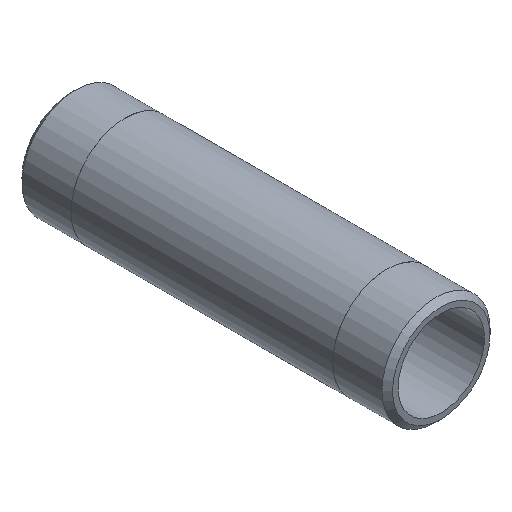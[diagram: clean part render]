
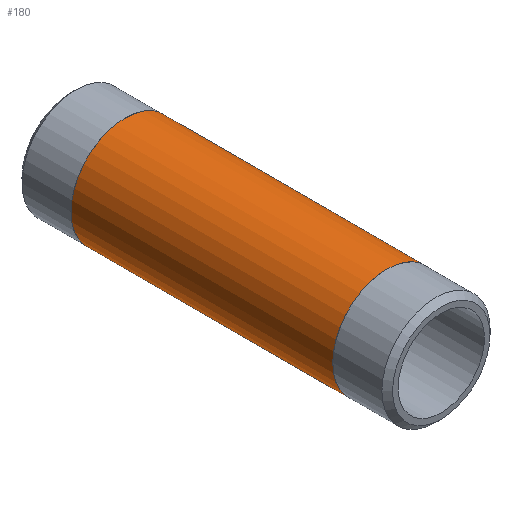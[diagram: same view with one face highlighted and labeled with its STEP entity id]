
A CAD part, isometric view. The second image highlights one B-rep face of the part: STEP entity #180.
In plain terms, the highlighted cylindrical face has radius 16.701 mm (diameter 33.401 mm), a full revolution.
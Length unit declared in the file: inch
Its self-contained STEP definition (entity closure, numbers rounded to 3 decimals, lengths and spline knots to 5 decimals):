
#25=CYLINDRICAL_SURFACE('',#220,0.6575);
#34=FACE_OUTER_BOUND('',#47,.T.);
#47=EDGE_LOOP('',(#155,#156,#157,#158,#159,#160));
#55=LINE('',#338,#61);
#61=VECTOR('',#283,0.6575);
#77=CIRCLE('',#218,0.6575);
#78=CIRCLE('',#219,0.6575);
#79=CIRCLE('',#221,0.6575);
#80=CIRCLE('',#222,0.6575);
#95=VERTEX_POINT('',#329);
#96=VERTEX_POINT('',#330);
#97=VERTEX_POINT('',#334);
#98=VERTEX_POINT('',#335);
#117=EDGE_CURVE('',#95,#96,#77,.T.);
#118=EDGE_CURVE('',#96,#95,#78,.T.);
#119=EDGE_CURVE('',#97,#98,#79,.T.);
#120=EDGE_CURVE('',#98,#97,#80,.T.);
#121=EDGE_CURVE('',#98,#96,#55,.T.);
#155=ORIENTED_EDGE('',*,*,#119,.F.);
#156=ORIENTED_EDGE('',*,*,#120,.F.);
#157=ORIENTED_EDGE('',*,*,#121,.T.);
#158=ORIENTED_EDGE('',*,*,#118,.T.);
#159=ORIENTED_EDGE('',*,*,#117,.T.);
#160=ORIENTED_EDGE('',*,*,#121,.F.);
#180=ADVANCED_FACE('',(#34),#25,.T.);
#218=AXIS2_PLACEMENT_3D('',#331,#273,#274);
#219=AXIS2_PLACEMENT_3D('',#332,#275,#276);
#220=AXIS2_PLACEMENT_3D('',#333,#277,#278);
#221=AXIS2_PLACEMENT_3D('',#336,#279,#280);
#222=AXIS2_PLACEMENT_3D('',#337,#281,#282);
#273=DIRECTION('center_axis',(0.,-1.,0.));
#274=DIRECTION('ref_axis',(1.,0.,0.));
#275=DIRECTION('center_axis',(0.,-1.,0.));
#276=DIRECTION('ref_axis',(1.,0.,0.));
#277=DIRECTION('center_axis',(0.,-1.,0.));
#278=DIRECTION('ref_axis',(0.,0.,-1.));
#279=DIRECTION('center_axis',(0.,-1.,0.));
#280=DIRECTION('ref_axis',(1.,0.,0.));
#281=DIRECTION('center_axis',(0.,-1.,0.));
#282=DIRECTION('ref_axis',(1.,0.,0.));
#283=DIRECTION('',(0.,1.,0.));
#329=CARTESIAN_POINT('',(0.,3.839,-0.6575));
#330=CARTESIAN_POINT('',(0.,3.839,0.6575));
#331=CARTESIAN_POINT('Origin',(0.,3.839,0.));
#332=CARTESIAN_POINT('Origin',(0.,3.839,0.));
#333=CARTESIAN_POINT('Origin',(0.,2.25,0.));
#334=CARTESIAN_POINT('',(0.,0.661,-0.6575));
#335=CARTESIAN_POINT('',(0.,0.661,0.6575));
#336=CARTESIAN_POINT('Origin',(0.,0.661,0.));
#337=CARTESIAN_POINT('Origin',(0.,0.661,0.));
#338=CARTESIAN_POINT('',(0.,2.25,0.6575));
